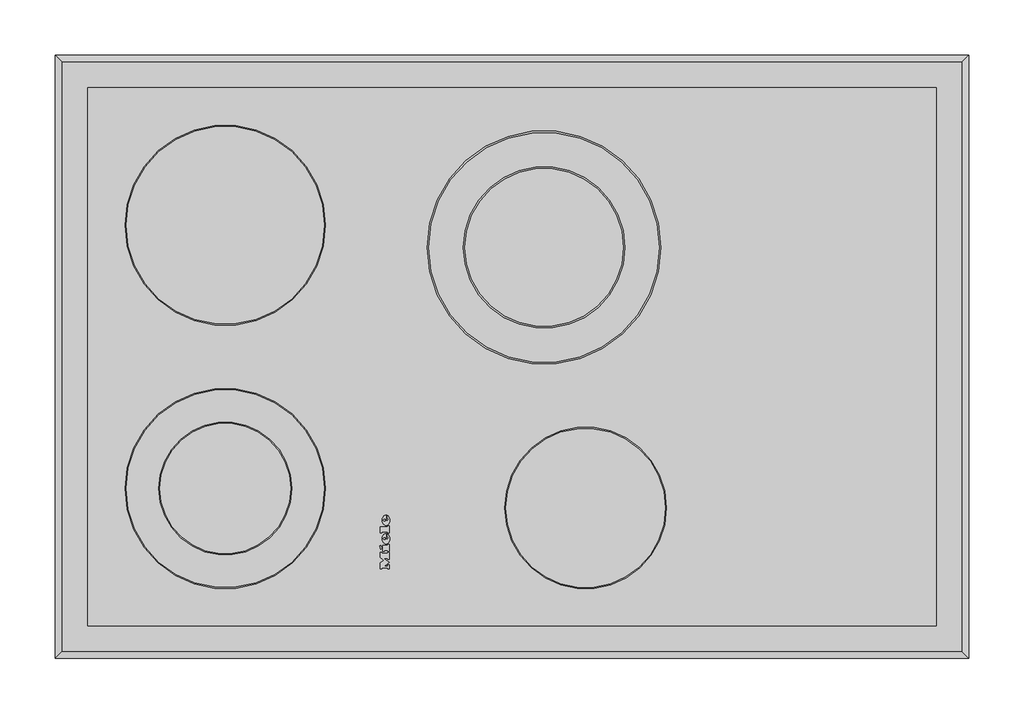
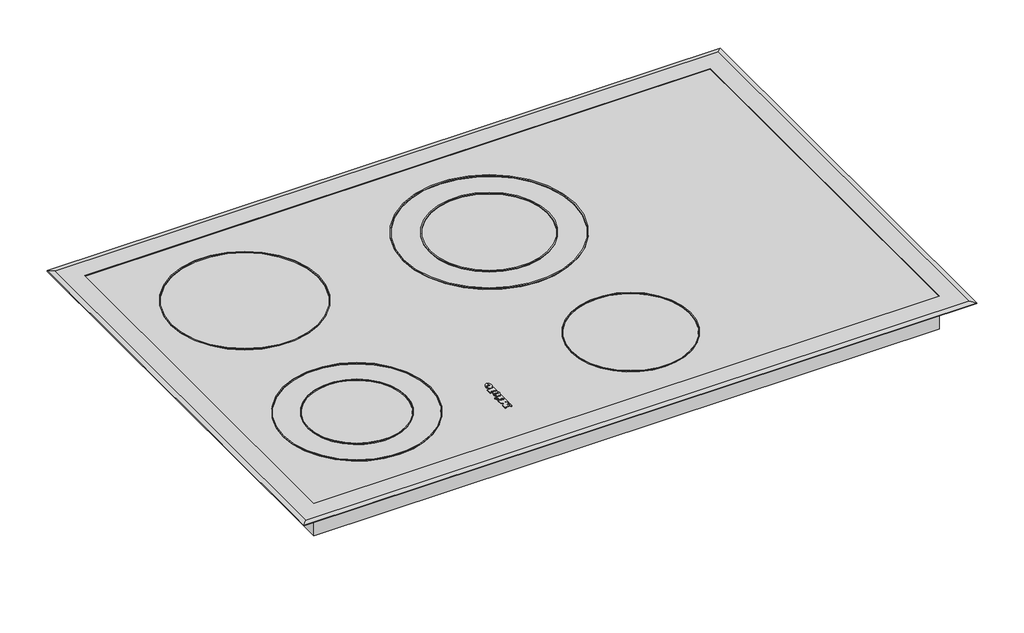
# Not in any storey: 1 proxy.
"""IFC4 building model written with IfcOpenShell, lengths in millimetres."""

from ifc_helpers import new_model, si_unit, origin, place, context, project, spatial, transform, mapped, element, save
from components import specialty_equipment_13e576dc

model = new_model("IFC4")

# Units and contexts
model_context = context("Model", 3, world=origin())
ifc_project = project(units=[si_unit("LENGTHUNIT", "METRE", prefix="MILLI")], contexts=[model_context])

# Site, building
site = spatial("IfcSite", under=ifc_project)
building = spatial("IfcBuilding", under=site)

# Proxy
placement = place(None, origin())
specialty_equipment_shape = specialty_equipment_13e576dc(model_context)
element("IfcBuildingElementProxy", 1, Name="06946450_CH_KM6039 : 26603950_CH_6946450_KM6039", ObjectType="06946450_CH_KM6039 : 26603950_CH_6946450_KM6039", at=placement, inside=building, context=model_context, shape_type="MappedRepresentation", body=[
    mapped(specialty_equipment_shape, transform((0.0, 0.0, 0.0), x_axis=(1.0, 0.0, 0.0), y_axis=(0.0, 1.0, 0.0), z_axis=(0.0, 0.0, 1.0))),
])

save(model, "model.ifc")
